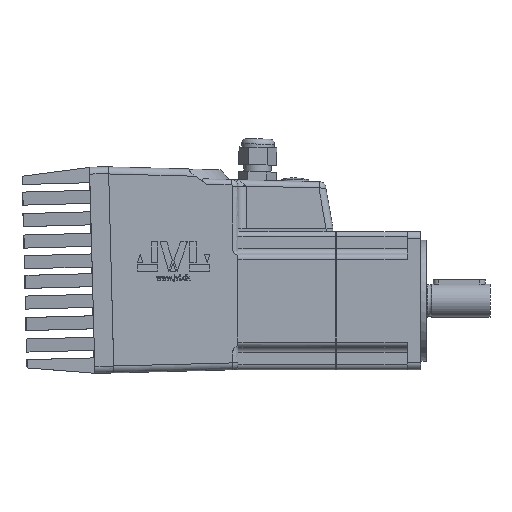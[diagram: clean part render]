
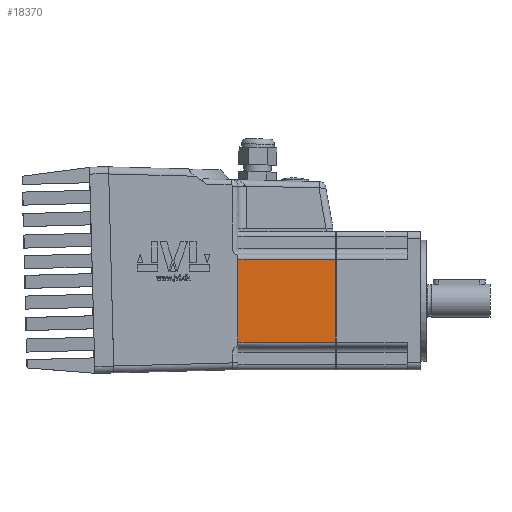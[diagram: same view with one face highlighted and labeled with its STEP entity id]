
A CAD part, front view. The second image highlights one B-rep face of the part: STEP entity #18370.
In plain terms, the highlighted planar face has unit normal (0, -1, 0).
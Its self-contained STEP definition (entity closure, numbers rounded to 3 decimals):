
#3732=ORIENTED_EDGE('',*,*,#7438,.T.);
#3733=ORIENTED_EDGE('',*,*,#7420,.T.);
#3734=ORIENTED_EDGE('',*,*,#7437,.F.);
#3735=ORIENTED_EDGE('',*,*,#6241,.F.);
#6241=EDGE_CURVE('',#8773,#8774,#10413,.T.);
#7420=EDGE_CURVE('',#9509,#9510,#11283,.T.);
#7437=EDGE_CURVE('',#8774,#9510,#11300,.T.);
#7438=EDGE_CURVE('',#8773,#9509,#11301,.T.);
#8773=VERTEX_POINT('',#30856);
#8774=VERTEX_POINT('',#30858);
#9509=VERTEX_POINT('',#34656);
#9510=VERTEX_POINT('',#34660);
#10413=LINE('',#30857,#12541);
#11283=LINE('',#34663,#13411);
#11300=LINE('',#34697,#13428);
#11301=LINE('',#34699,#13429);
#12541=VECTOR('',#25218,1000.);
#13411=VECTOR('',#27542,1000.);
#13428=VECTOR('',#27593,1000.);
#13429=VECTOR('',#27596,1000.);
#15131=EDGE_LOOP('',(#3732,#3733,#3734,#3735));
#16387=FACE_BOUND('',#15131,.T.);
#17345=PLANE('',#24213);
#18370=ADVANCED_FACE('',(#16387),#17345,.T.);
#24213=AXIS2_PLACEMENT_3D('',#34698,#27594,#27595);
#25218=DIRECTION('',(0.,0.,1.));
#27542=DIRECTION('',(0.,0.,1.));
#27593=DIRECTION('',(1.,0.,0.));
#27594=DIRECTION('',(0.,-1.,0.));
#27595=DIRECTION('',(0.,0.,-1.));
#27596=DIRECTION('',(1.,0.,0.));
#30856=CARTESIAN_POINT('',(40.328,-40.,-24.));
#30857=CARTESIAN_POINT('',(40.328,-40.,-24.));
#30858=CARTESIAN_POINT('',(40.328,-40.,24.));
#34656=CARTESIAN_POINT('',(97.028,-40.,-24.));
#34660=CARTESIAN_POINT('',(97.028,-40.,24.));
#34663=CARTESIAN_POINT('',(97.028,-40.,24.));
#34697=CARTESIAN_POINT('',(40.328,-40.,24.));
#34698=CARTESIAN_POINT('',(40.328,-40.,-24.));
#34699=CARTESIAN_POINT('',(40.328,-40.,-24.));
